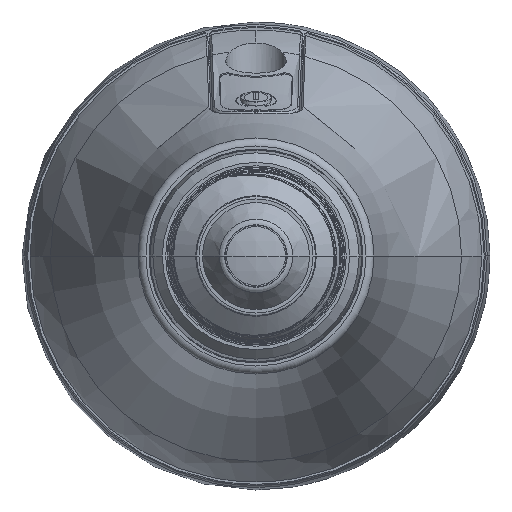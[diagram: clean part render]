
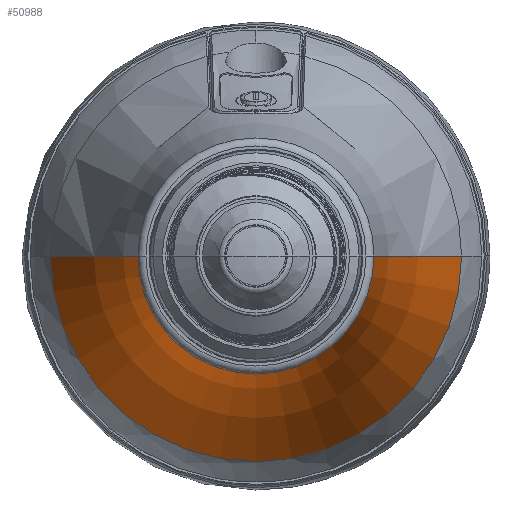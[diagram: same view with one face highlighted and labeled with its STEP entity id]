
A CAD part, front view. The second image highlights one B-rep face of the part: STEP entity #50988.
In plain terms, the highlighted toroidal (fillet/blend) face has major radius 127.406 mm and minor radius 110 mm.
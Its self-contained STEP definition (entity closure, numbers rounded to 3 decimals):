
#4635 = CIRCLE ( 'NONE', #32595, 30.753 ) ;
#5438 = EDGE_CURVE ( 'NONE', #14423, #37060, #9135, .T. ) ;
#5748 = VERTEX_POINT ( 'NONE', #28717 ) ;
#6141 = DIRECTION ( 'NONE',  ( 1., 0., 0. ) ) ;
#7933 = CARTESIAN_POINT ( 'NONE',  ( -30.753, -16.709, 0. ) ) ;
#8598 = ORIENTED_EDGE ( 'NONE', *, *, #51251, .F. ) ;
#8738 = EDGE_LOOP ( 'NONE', ( #8598, #29539, #23524, #17127 ) ) ;
#8760 = DIRECTION ( 'NONE',  ( 0., -1., 0. ) ) ;
#9135 = CIRCLE ( 'NONE', #58406, 110. ) ;
#14423 = VERTEX_POINT ( 'NONE', #58808 ) ;
#15139 = CIRCLE ( 'NONE', #24689, 110. ) ;
#15948 = CARTESIAN_POINT ( 'NONE',  ( 0., -61.781, 0. ) ) ;
#16278 = DIRECTION ( 'NONE',  ( 0., 0., -1. ) ) ;
#17127 = ORIENTED_EDGE ( 'NONE', *, *, #31277, .F. ) ;
#19726 = TOROIDAL_SURFACE ( 'NONE', #42633, 127.406, 110. ) ;
#20553 = DIRECTION ( 'NONE',  ( 1., 0., 0. ) ) ;
#23524 = ORIENTED_EDGE ( 'NONE', *, *, #53039, .T. ) ;
#24009 = FACE_OUTER_BOUND ( 'NONE', #8738, .T. ) ;
#24509 = DIRECTION ( 'NONE',  ( 0., 0., 1. ) ) ;
#24689 = AXIS2_PLACEMENT_3D ( 'NONE', #43632, #16278, #48196 ) ;
#28717 = CARTESIAN_POINT ( 'NONE',  ( 17.659, -61.781, 0. ) ) ;
#29017 = CIRCLE ( 'NONE', #30429, 17.659 ) ;
#29117 = CARTESIAN_POINT ( 'NONE',  ( -127.406, -69.226, 0. ) ) ;
#29539 = ORIENTED_EDGE ( 'NONE', *, *, #5438, .T. ) ;
#29813 = CARTESIAN_POINT ( 'NONE',  ( 30.753, -16.709, 0. ) ) ;
#30429 = AXIS2_PLACEMENT_3D ( 'NONE', #15948, #47867, #20553 ) ;
#31277 = EDGE_CURVE ( 'NONE', #5748, #46323, #15139, .T. ) ;
#32595 = AXIS2_PLACEMENT_3D ( 'NONE', #36167, #8760, #40761 ) ;
#33531 = DIRECTION ( 'NONE',  ( 0., -1., 0. ) ) ;
#36167 = CARTESIAN_POINT ( 'NONE',  ( 0., -16.709, 0. ) ) ;
#37060 = VERTEX_POINT ( 'NONE', #7933 ) ;
#40761 = DIRECTION ( 'NONE',  ( 1., 0., 0. ) ) ;
#42633 = AXIS2_PLACEMENT_3D ( 'NONE', #47066, #33531, #6141 ) ;
#43632 = CARTESIAN_POINT ( 'NONE',  ( 127.406, -69.226, 0. ) ) ;
#46323 = VERTEX_POINT ( 'NONE', #29813 ) ;
#47066 = CARTESIAN_POINT ( 'NONE',  ( 0., -69.226, 0. ) ) ;
#47867 = DIRECTION ( 'NONE',  ( 0., -1., 0. ) ) ;
#48196 = DIRECTION ( 'NONE',  ( -1., 0., 0. ) ) ;
#50988 = ADVANCED_FACE ( 'NONE', ( #24009 ), #19726, .F. ) ;
#51251 = EDGE_CURVE ( 'NONE', #14423, #5748, #29017, .T. ) ;
#51827 = DIRECTION ( 'NONE',  ( 1., 0., 0. ) ) ;
#53039 = EDGE_CURVE ( 'NONE', #37060, #46323, #4635, .T. ) ;
#58406 = AXIS2_PLACEMENT_3D ( 'NONE', #29117, #24509, #51827 ) ;
#58808 = CARTESIAN_POINT ( 'NONE',  ( -17.659, -61.781, 0. ) ) ;
